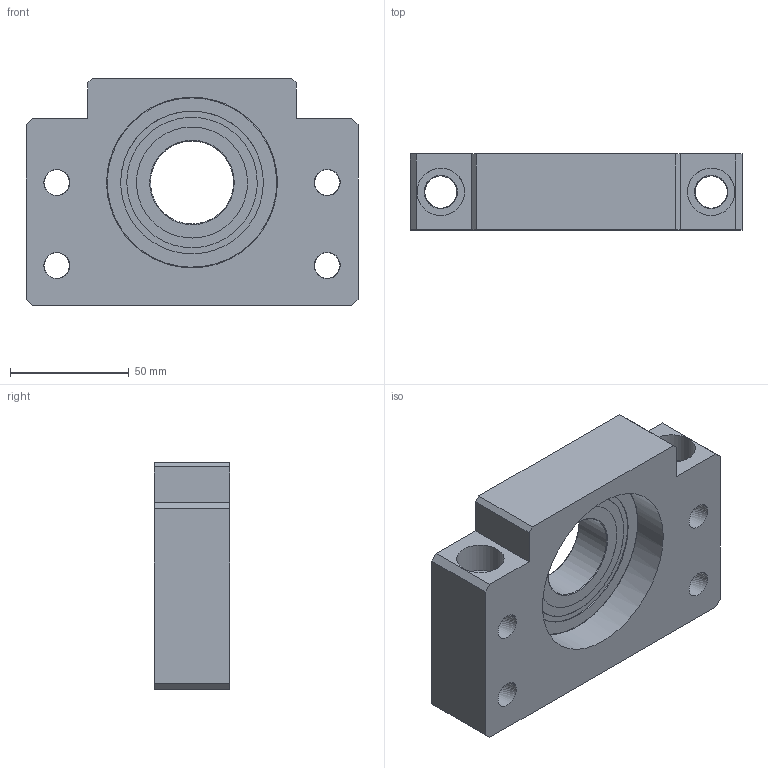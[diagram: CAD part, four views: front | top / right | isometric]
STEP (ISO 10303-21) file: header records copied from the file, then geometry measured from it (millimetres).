
FILE_DESCRIPTION( ('This file contains a STEP AP42 implementation' ,'as created by ZW3D STEP Interface translator.') ,'2;1' );
FILE_NAME( '2EC0179C-41C6-1938-13F8-435136345168.stp' ,'171124.1849 2', (''), ('ZWCAD Software Co.'), 'Version 1.0', 'ZW3D to STEP translator', '' );
FILE_SCHEMA( ('CONFIG_CONTROL_DESIGN') );
Length unit declared in the file: millimetre
Products named in the file (4): 0; NSFBF-35; _BF 35 Part2; _BF 35 Part1
Assembly tree (2 placements, depth 2):
  0
  NSFBF-35
    _BF 35 Part2
    _BF 35 Part1
Bounding box: 140 x 32 x 96 mm (x, y, z)
Volume: 287438.7 mm3; surface area: 59213.1 mm2
Topology: 2 solids, 2 shells, 51 faces, 126 edges, 83 vertices
Faces by surface type: bspline 51
Entity records: 2403 total; most frequent: CARTESIAN_POINT 1477, ORIENTED_EDGE 252, EDGE_CURVE 126, VERTEX_POINT 83, B_SPLINE_CURVE_WITH_KNOTS 83, EDGE_LOOP 79, FACE_OUTER_BOUND 51, ADVANCED_FACE 51
